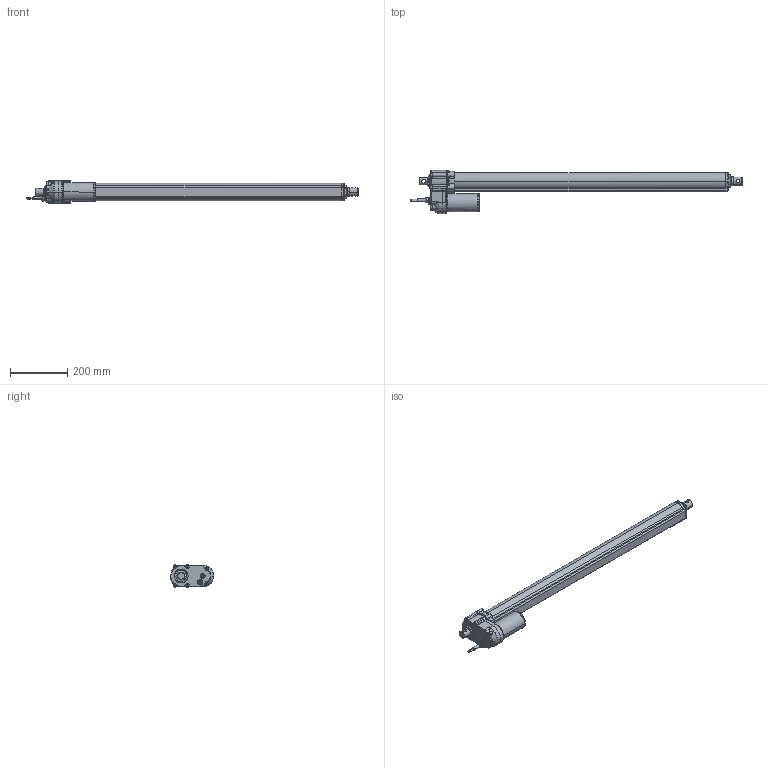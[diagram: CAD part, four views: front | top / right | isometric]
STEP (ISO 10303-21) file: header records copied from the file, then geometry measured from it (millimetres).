
FILE_DESCRIPTION(('STEP AP203'),'1');
FILE_NAME('LINACT-33P-800MM.stp','2025-11-20T12:31:31',('Linear Actuators S.A.'),('Linear Actuators South Africa (Pty) Ltd'),'Spatial InterOp 3D',' ',' ');
FILE_SCHEMA(('CONFIG_CONTROL_DESIGN'));
Length unit declared in the file: millimetre
Products named in the file (1): 1
Bounding box: 1161.27 x 151.4 x 79 mm (x, y, z)
Volume: 4280504.5 mm3; surface area: 290252 mm2
Topology: 1 solids, 1 shells, 940 faces, 2391 edges, 1467 vertices
Faces by surface type: torus 294, plane 239, cylinder 234, bspline 105, cone 66, sphere 2
Entity records: 41074 total; most frequent: CARTESIAN_POINT 19629, ORIENTED_EDGE 4728, DIRECTION 4260, EDGE_CURVE 2364, AXIS2_PLACEMENT_3D 1786, VERTEX_POINT 1467, EDGE_LOOP 985, CIRCLE 942
